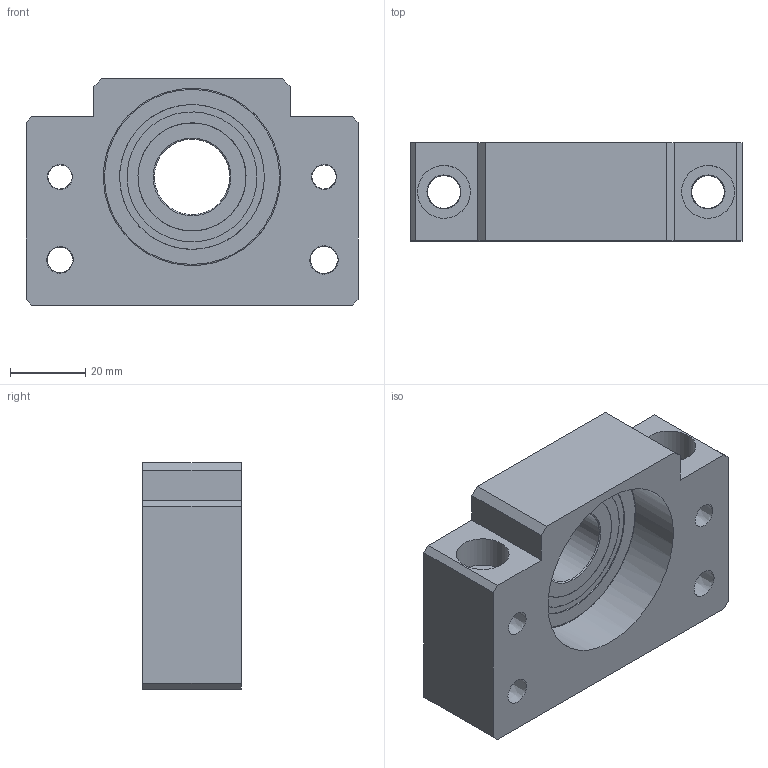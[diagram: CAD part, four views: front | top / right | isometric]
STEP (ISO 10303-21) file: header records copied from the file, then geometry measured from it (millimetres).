
FILE_DESCRIPTION( ('This file contains a STEP AP42 implementation' ,'as created by ZW3D STEP Interface translator.') ,'2;1' );
FILE_NAME( '87FDCF80-5BB9-FF46-4088-D6AF54A7F3B3.stp' ,'17 829.111940', (''), ('ZWCAD Software Co.'), 'Version 1.0', 'ZW3D to STEP translator', '' );
FILE_SCHEMA( ('CONFIG_CONTROL_DESIGN') );
Length unit declared in the file: millimetre
Products named in the file (4): 0; FSFBF-20; _BF 20 Part2; _BF 20 Part1
Assembly tree (2 placements, depth 2):
  0
  FSFBF-20
    _BF 20 Part2
    _BF 20 Part1
Bounding box: 88 x 26 x 60 mm (x, y, z)
Volume: 88847.4 mm3; surface area: 27005.2 mm2
Topology: 2 solids, 2 shells, 51 faces, 126 edges, 83 vertices
Faces by surface type: bspline 51
Entity records: 2369 total; most frequent: CARTESIAN_POINT 1443, ORIENTED_EDGE 252, EDGE_CURVE 126, VERTEX_POINT 83, B_SPLINE_CURVE_WITH_KNOTS 83, EDGE_LOOP 79, FACE_OUTER_BOUND 51, ADVANCED_FACE 51
